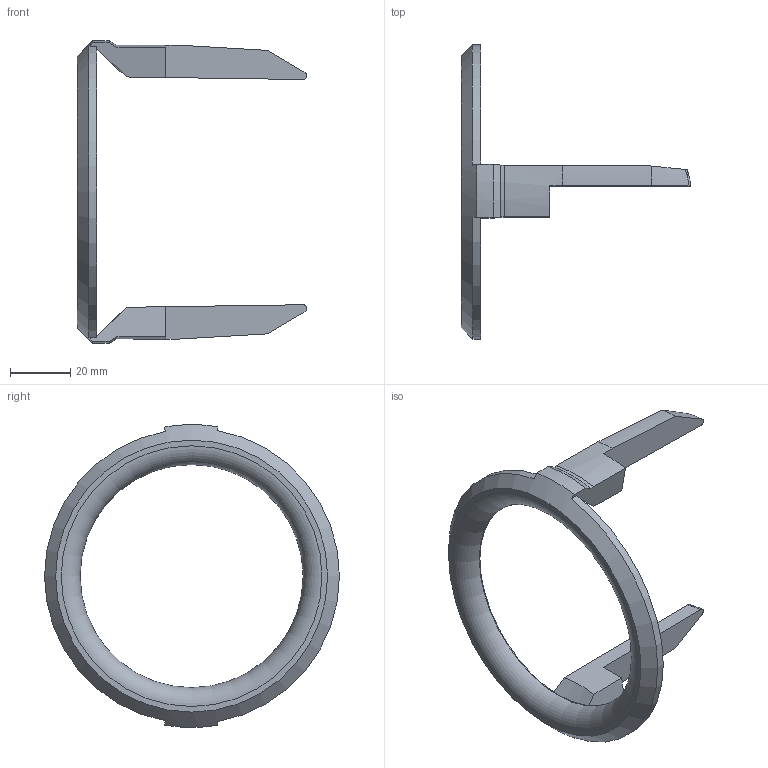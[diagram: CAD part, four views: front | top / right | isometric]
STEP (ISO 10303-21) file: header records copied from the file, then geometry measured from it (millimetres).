
FILE_DESCRIPTION(/* description */ (''),/* implementation_level */ '2;1');
FILE_NAME(/* name */ 'F:/F-Shared-Ryzen7 - PROD/F-OWL-PLANES/BAE Hawk T1 70mm EDF/OWLplane OWL BAE Hawk T1 70mm EDF v1.0/OWL BAE Hawk T1 70mm - SUPPORT/EDF-BRACKET-70mm/STEP/Fixed Leading Edge 70mm EDF.step',/* time_stamp */ '2022-07-11T17:37:58+07:00',/* author */ (''),/* organization */ (''),/* preprocessor_version */ 'ST-DEVELOPER v19',/* originating_system */ 'Autodesk Translation Framework v11.7.0.108',/* authorisation */ '');
FILE_SCHEMA (('AUTOMOTIVE_DESIGN { 1 0 10303 214 3 1 1 }'));
Length unit declared in the file: millimetre
Products named in the file (1): All in One Arm Rest + 1mm
Bounding box: 76.13 x 97.73 x 100.32 mm (x, y, z)
Volume: 27645.9 mm3; surface area: 13976.8 mm2
Topology: 1 solids, 1 shells, 46 faces, 129 edges, 86 vertices
Faces by surface type: plane 13, bspline 12, cylinder 11, cone 9, torus 1
Full cylindrical faces by diameter (mm): 5.59 x1
Entity records: 2000 total; most frequent: CARTESIAN_POINT 865, ORIENTED_EDGE 258, DIRECTION 196, EDGE_CURVE 129, VERTEX_POINT 86, AXIS2_PLACEMENT_3D 74, EDGE_LOOP 49, LINE 48
